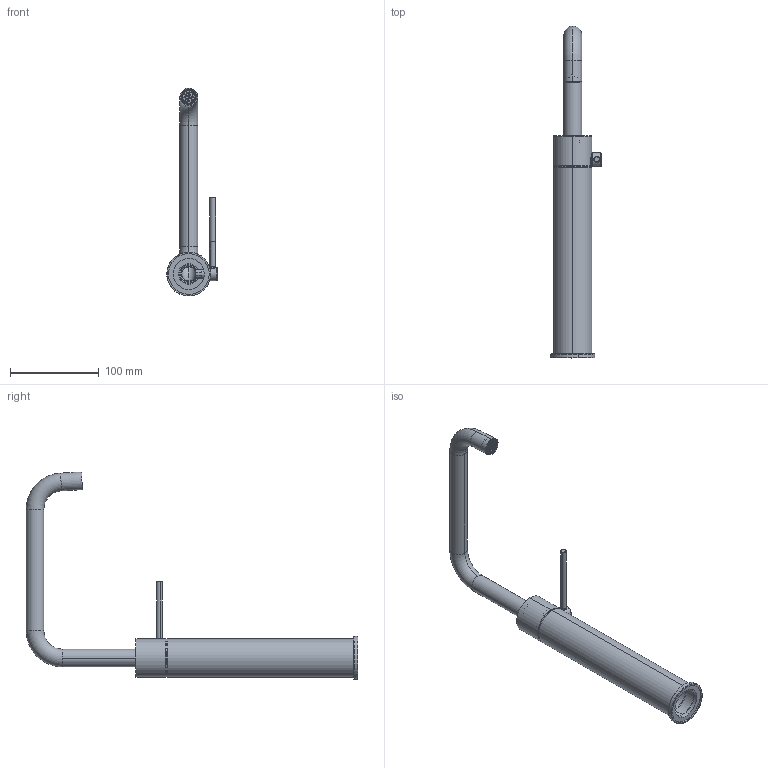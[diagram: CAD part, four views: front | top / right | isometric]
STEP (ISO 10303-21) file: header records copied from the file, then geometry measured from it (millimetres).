
FILE_DESCRIPTION (( 'STEP AP203' ), '1' );
FILE_NAME ('VEVE125158_2.STEP', '2020-01-13T07:32:38', ( 'Admin' ), ( 'Hewlett-Packard Company' ), 'SwSTEP 2.0', 'SolidWorks 2019', '' );
FILE_SCHEMA (( 'CONFIG_CONTROL_DESIGN' ));
Length unit declared in the file: millimetre
Products named in the file (10): corpo_leva_2020_125001; pomolo_leva_Ø6.5_2020_125002; canna_lavabo_U_bacinella_2020_125027; anello_base_77002_000; cappellotto_2020_125003; camicia_bacinella_medio_2020_125017_MEDIO; anello_antifrizione_cappellotto_2020_125004; INVISIO-18x1-Junior-_AMFAG; anello_antifrizione_superiore_2020_125009; VEVE125158_2
Assembly tree (9 placements, depth 2):
  VEVE125158_2
    cappellotto_2020_125003
    anello_antifrizione_cappellotto_2020_125004
    anello_antifrizione_superiore_2020_125009
    corpo_leva_2020_125001
    pomolo_leva_Ø6.5_2020_125002
    canna_lavabo_U_bacinella_2020_125027
    anello_base_77002_000
    camicia_bacinella_medio_2020_125017_MEDIO
    INVISIO-18x1-Junior-_AMFAG
Bounding box: 56.79 x 374.5 x 234.77 mm (x, y, z)
Volume: 141178.1 mm3; surface area: 120278.9 mm2
Topology: 9 solids, 11 shells, 3034 faces, 8557 edges, 5385 vertices
Faces by surface type: bspline 1570, cylinder 678, plane 647, cone 86, torus 53
Entity records: 128019 total; most frequent: CARTESIAN_POINT 64675, ORIENTED_EDGE 17094, EDGE_CURVE 8547, DIRECTION 6699, VERTEX_POINT 5385, B_SPLINE_CURVE_WITH_KNOTS 5332, EDGE_LOOP 3382, FACE_OUTER_BOUND 3033
